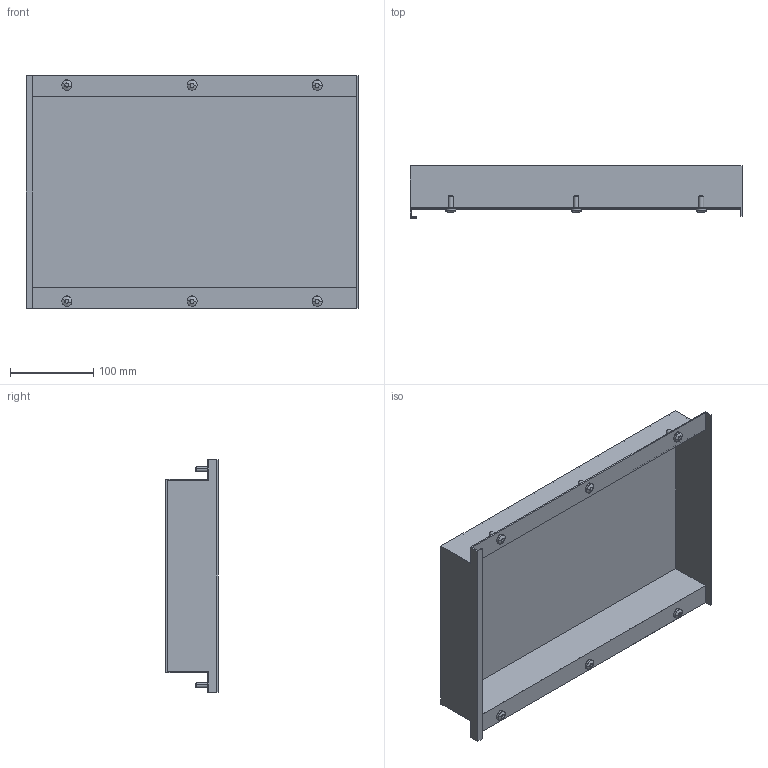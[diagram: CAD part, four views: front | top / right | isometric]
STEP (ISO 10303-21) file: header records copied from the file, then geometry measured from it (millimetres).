
FILE_DESCRIPTION (( 'STEP AP214' ), '1' );
FILE_NAME ('FO-00-PVSU-040-040 Ïëàñòðîí âíóòðåííèé óãëóáëåííûé 400õ400õ50.STEP', '2025-09-29T17:31:01', ( '' ), ( '' ), 'SwSTEP 2.0', 'SolidWorks 2023', '' );
FILE_SCHEMA (( 'AUTOMOTIVE_DESIGN' ));
Length unit declared in the file: millimetre
Products named in the file (3): FO-00-PVSU-040-040 Пластрон внутренний углубленный 400х400х50; Винты М6х16 40-40
Assembly tree (3 placements, depth 2):
  FO-00-PVSU-040-040 Пластрон внутренний углубленный 400х400х50
    FO-00-PVSU-040-040 Пластрон внутренний углубленный 400х400х50
    Винты М6х16 40-40  x2
Bounding box: 398 x 62.5 x 279 mm (x, y, z)
Volume: 257911.5 mm3; surface area: 367824.2 mm2
Topology: 7 solids, 7 shells, 214 faces, 558 edges, 364 vertices
Faces by surface type: cylinder 132, plane 52, cone 18, bspline 12
Entity records: 4464 total; most frequent: CARTESIAN_POINT 1022, ORIENTED_EDGE 708, DIRECTION 692, EDGE_CURVE 354, AXIS2_PLACEMENT_3D 256, VERTEX_POINT 232, VECTOR 180, LINE 180
